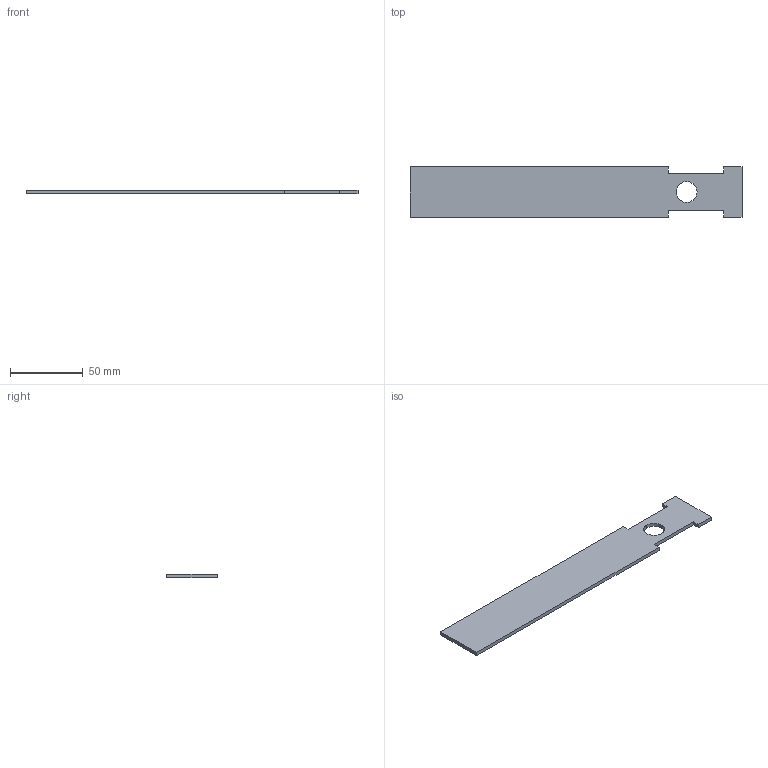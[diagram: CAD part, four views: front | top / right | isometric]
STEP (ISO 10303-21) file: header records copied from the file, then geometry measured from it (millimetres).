
FILE_DESCRIPTION(('TurboCAD Mac Pro'),'Build 980');
FILE_NAME('P1659A.stp',' ',(''),(''),'ACIS Interop','IMSI','TurboCAD Mac Pro BY IMSI, INCORPORATED');
FILE_SCHEMA(('automotive_design'));
Length unit declared in the file: inch
Products named in the file (1): 1
Bounding box: 228.6 x 34.93 x 2.67 mm (x, y, z)
Volume: 19897.6 mm3; surface area: 16497.5 mm2
Topology: 1 solids, 1 shells, 18 faces, 48 edges, 32 vertices
Faces by surface type: plane 14, bspline 4
Entity records: 748 total; most frequent: CARTESIAN_POINT 151, ORIENTED_EDGE 96, DIRECTION 70, EDGE_CURVE 48, LINE 40, VECTOR 40, VERTEX_POINT 32, EDGE_LOOP 20
